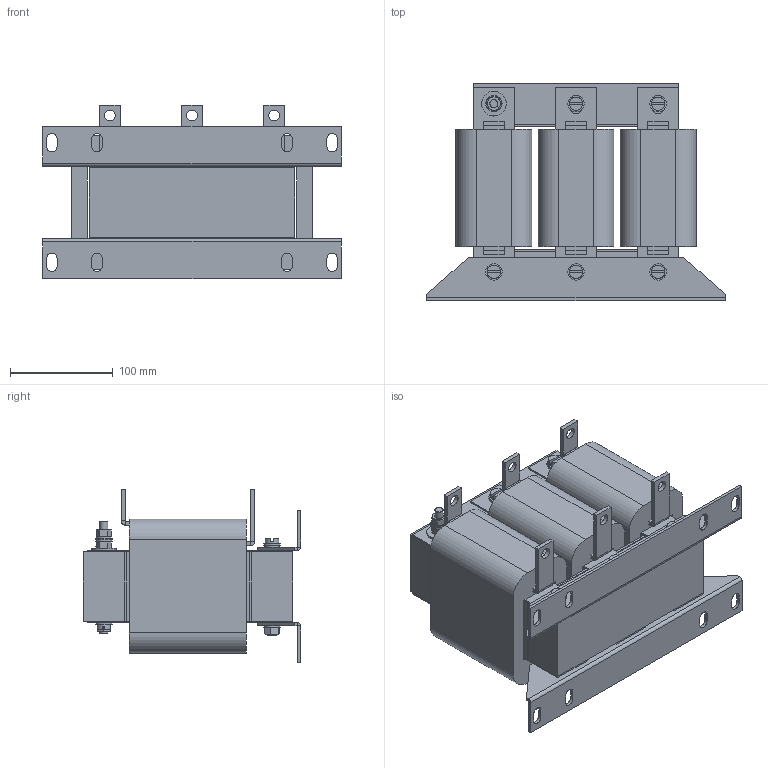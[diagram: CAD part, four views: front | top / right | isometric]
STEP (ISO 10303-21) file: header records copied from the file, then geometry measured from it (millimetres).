
FILE_DESCRIPTION (( 'STEP AP214' ), '1' );
FILE_NAME ('PCT-180.STEP', '2015-04-29T11:03:46', ( 'EDV' ), ( 'Microsoft' ), 'SwSTEP 2.0', 'SolidWorks 2014', '' );
FILE_SCHEMA (( 'AUTOMOTIVE_DESIGN' ));
Length unit declared in the file: millimetre
Products named in the file (19): plain washer large_din_Washer DIN 9021 - 8.4; PCT-180; curved spring lock washer_din_Spring washer DIN 128 - A8; M8x100-DIN84; hex nut style 1 gradeab_din_Hexagon Nut ISO 4032 - M8 - D - N; Isolierbuchse M8_M05; plain washer grade a_din_Washer DIN 125 - A 8.4; M8x90-DIN84; #700-0156; #700-0155; 3UI 120_71; D57a; +6226-0002; Luftspalt 200x67,5x1,85mm; Luftspalt 200x67,5x2mm; #142-0007_t=39; #143-0007; M8x85-DIN84
Assembly tree (57 placements, depth 2):
  PCT-180
    #143-0007  x3
    #142-0007_t=39
    #142-0007_t=39
    Luftspalt 200x67,5x2mm
    Luftspalt 200x67,5x1,85mm
    +6226-0002  x2
    D57a  x6
    3UI 120_71  x3
    #700-0155  x3
    #700-0156  x3
    M8x90-DIN84  x3
    plain washer grade a_din_Washer DIN 125 - A 8.4  x13
    Isolierbuchse M8_M05  x5
    hex nut style 1 gradeab_din_Hexagon Nut ISO 4032 - M8 - D - N  x7
    M8x100-DIN84
    curved spring lock washer_din_Spring washer DIN 128 - A8
    plain washer large_din_Washer DIN 9021 - 8.4
    M8x85-DIN84  x2
Bounding box: 291 x 211.85 x 169 mm (x, y, z)
Volume: 4497967.4 mm3; surface area: 766511.9 mm2
Topology: 57 solids, 57 shells, 914 faces, 2133 edges, 1368 vertices
Faces by surface type: plane 612, cylinder 156, cone 104, bspline 40, torus 2
Full cylindrical faces by diameter (mm): 4.168 x1, 6.8 x7, 8 x13, 8.2 x5, 8.4 x14, 9.9 x5, 10.5 x6, 11 x18, 13 x6, 14 x5, 16 x13, 24 x1
Entity records: 17644 total; most frequent: CARTESIAN_POINT 5193, ORIENTED_EDGE 2328, DIRECTION 2187, EDGE_CURVE 1164, VECTOR 921, LINE 921, VERTEX_POINT 783, AXIS2_PLACEMENT_3D 633
